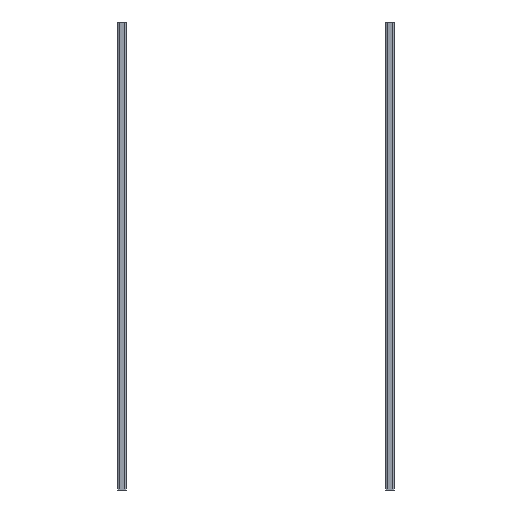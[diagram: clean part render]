
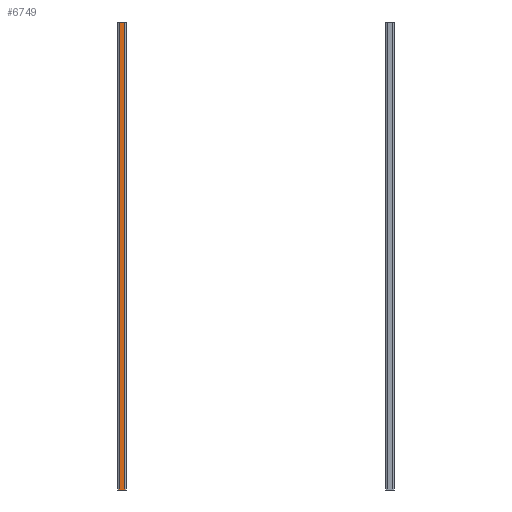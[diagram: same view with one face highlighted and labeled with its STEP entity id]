
A CAD part, front view. The second image highlights one B-rep face of the part: STEP entity #6749.
In plain terms, the highlighted planar face has unit normal (0, -1, 0).
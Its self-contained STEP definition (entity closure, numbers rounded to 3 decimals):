
#772=FACE_OUTER_BOUND('',#1137,.T.);
#1137=EDGE_LOOP('',(#4821,#4822,#4823,#4824));
#1654=LINE('',#10448,#2276);
#1655=LINE('',#10451,#2277);
#1656=LINE('',#10453,#2278);
#1657=LINE('',#10454,#2279);
#2276=VECTOR('',#8481,10.);
#2277=VECTOR('',#8484,10.);
#2278=VECTOR('',#8485,10.);
#2279=VECTOR('',#8486,10.);
#2903=VERTEX_POINT('',#10442);
#2905=VERTEX_POINT('',#10446);
#2906=VERTEX_POINT('',#10450);
#2907=VERTEX_POINT('',#10452);
#3648=EDGE_CURVE('',#2903,#2905,#1654,.T.);
#3649=EDGE_CURVE('',#2906,#2905,#1655,.T.);
#3650=EDGE_CURVE('',#2906,#2907,#1656,.T.);
#3651=EDGE_CURVE('',#2903,#2907,#1657,.T.);
#4821=ORIENTED_EDGE('',*,*,#3648,.T.);
#4822=ORIENTED_EDGE('',*,*,#3649,.F.);
#4823=ORIENTED_EDGE('',*,*,#3650,.T.);
#4824=ORIENTED_EDGE('',*,*,#3651,.F.);
#6219=PLANE('',#7344);
#6749=ADVANCED_FACE('',(#772),#6219,.T.);
#7344=AXIS2_PLACEMENT_3D('',#10449,#8482,#8483);
#8481=DIRECTION('',(0.,0.,1.));
#8482=DIRECTION('center_axis',(0.,-1.,0.));
#8483=DIRECTION('ref_axis',(-1.,0.,0.));
#8484=DIRECTION('',(1.,0.,0.));
#8485=DIRECTION('',(0.,0.,-1.));
#8486=DIRECTION('',(-1.,0.,0.));
#10442=CARTESIAN_POINT('',(9.8,-22.25,-650.));
#10446=CARTESIAN_POINT('',(9.8,-22.25,0.));
#10448=CARTESIAN_POINT('',(9.8,-22.25,0.));
#10449=CARTESIAN_POINT('Origin',(11.8,-22.25,0.));
#10450=CARTESIAN_POINT('',(2.,-22.25,0.));
#10451=CARTESIAN_POINT('',(0.,-22.25,0.));
#10452=CARTESIAN_POINT('',(2.,-22.25,-650.));
#10453=CARTESIAN_POINT('',(2.,-22.25,0.));
#10454=CARTESIAN_POINT('',(0.,-22.25,-650.));
